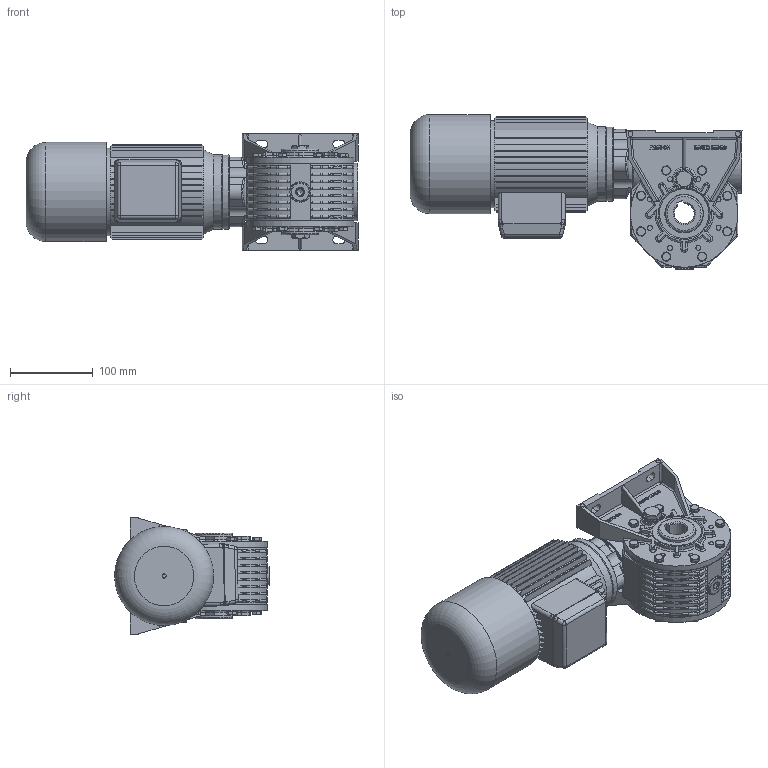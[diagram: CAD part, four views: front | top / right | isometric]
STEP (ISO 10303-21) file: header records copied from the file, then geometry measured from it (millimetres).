
FILE_DESCRIPTION((''),'2;1');
FILE_NAME('Y:\Archivi Inventor\Prog_01\GRAND_20\figuirini\mrv20_sito\63_AUTOFRENANTE\MRV---20---P1-----63----B14F3D.stp','2013-02-08T15:59:29',('tech3'),(''),'Autodesk Inventor 2013','Autodesk Inventor 2013','');
FILE_SCHEMA(('AUTOMOTIVE_DESIGN { 1 0 10303 214 1 1 1 1 }'));
Length unit declared in the file: millimetre
Products named in the file (17): fig_mrv20_63_b14; mrv20; 0102001; 01020010; Coperchietto_47x7; Guarnizione 3_8 GAS; Tappo3_8 GAS; Tappo 3_8 GAS_esagn_incsst; mozzo_corona_fig; PARAOLIO 45x60x8; ISO 4017 M6 x 16; 0102029; DIN EN 24017 M6 x 12; 0102028; DIN EN ISO 4762 M6 x 20; 0102006; motori B14 brake 63
Assembly tree (43 placements, depth 3):
  fig_mrv20_63_b14
    mrv20
      0102001
      01020010  x2
      Coperchietto_47x7
      Guarnizione 3_8 GAS  x4
      Tappo3_8 GAS  x2
      Tappo 3_8 GAS_esagn_incsst  x2
      mozzo_corona_fig
      PARAOLIO 45x60x8  x2
      ISO 4017 M6 x 16  x16
      0102029  x2
      DIN EN 24017 M6 x 12  x2
      0102028
      DIN EN ISO 4762 M6 x 20  x4
    0102006
    motori B14 brake 63
Bounding box: 402 x 187.49 x 140.9 mm (x, y, z)
Volume: 3227792.8 mm3; surface area: 570449.9 mm2
Topology: 43 solids, 50 shells, 2667 faces, 6527 edges, 4020 vertices
Faces by surface type: plane 1359, cylinder 558, bspline 358, cone 194, torus 178, sphere 20
Full cylindrical faces by diameter (mm): 2 x2, 4.134 x4, 4.917 x20, 5 x1, 6 x38, 6.5 x36, 6.75 x4, 7 x4, 8 x2, 8.88 x18, 10 x4, 11 x17, 13.046 x2, 14.95 x4, 16.3 x4, 16.5 x2, 22 x8, 25 x2, 40 x1, 41.36 x1, 44.4 x2, 45 x4, 47 x4, 49.5 x1, 50.605 x2, 55.5 x2, 60 x5, 69.5 x1, 70 x1, 90 x2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
Entity records: 61470 total; most frequent: CARTESIAN_POINT 20208, ORIENTED_EDGE 8274, DIRECTION 8056, EDGE_CURVE 4137, AXIS2_PLACEMENT_3D 3020, VERTEX_POINT 2647, EDGE_LOOP 2108, VECTOR 2016
